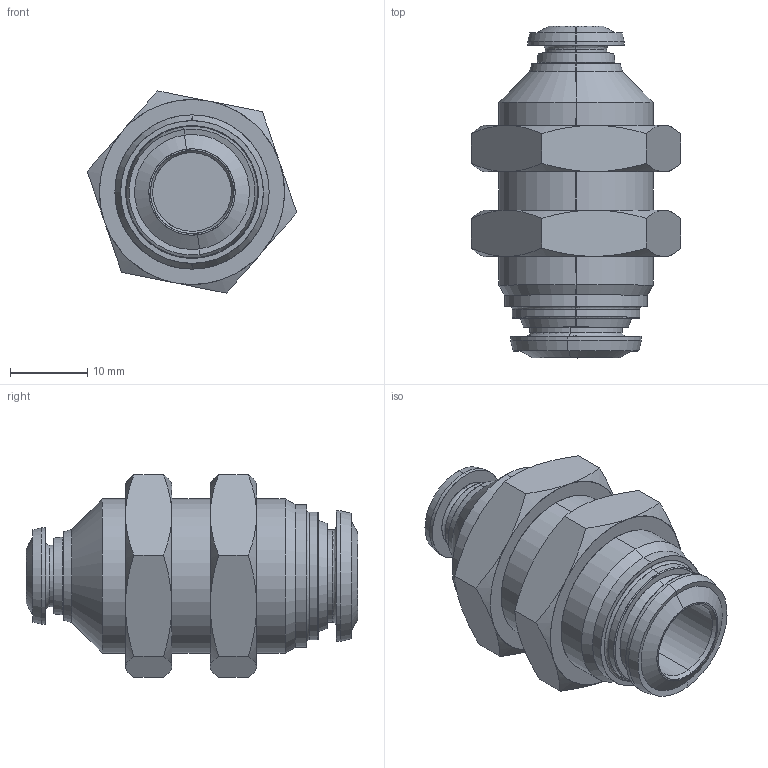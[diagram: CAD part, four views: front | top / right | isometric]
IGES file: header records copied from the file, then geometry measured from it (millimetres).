
Start section: SolidWorks IGES file using analytic representation for surfaces
Global section: file name: K:\Disegni Esecutivi\SERIE 50000\ASSIEMI_50000\50050\5005000010A.IGS; native system: SolidWorks 2016; preprocessor: SolidWorks 2016; author: cad01; date: 190618.100350; units: millimetre
Bounding box: 27.18 x 43.05 x 26.24 mm (x, y, z)
Surface area: 4793.7 mm2 (no closed solid volume)
Topology: 0 solids, 0 shells, 129 faces, 1824 edges, 1824 vertices
Faces by surface type: revolution 88, bspline 41
